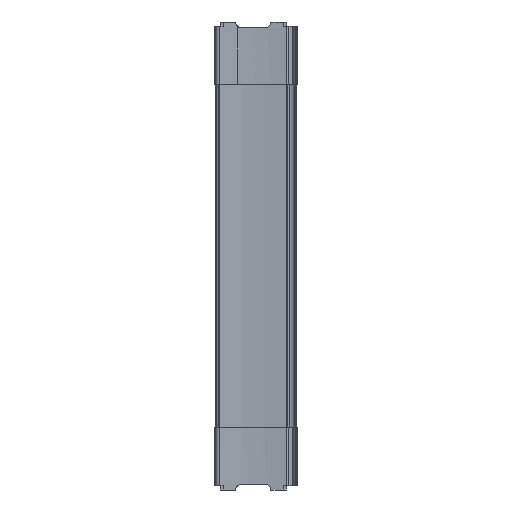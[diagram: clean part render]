
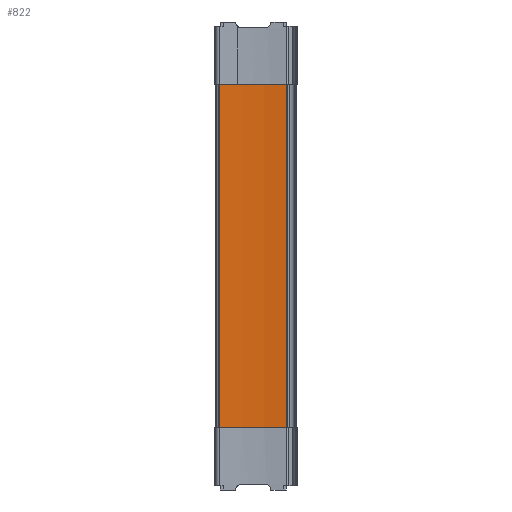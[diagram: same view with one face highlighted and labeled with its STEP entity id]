
A CAD part, left-side view. The second image highlights one B-rep face of the part: STEP entity #822.
In plain terms, the highlighted cylindrical face has radius 250 mm (diameter 500 mm), a partial arc.
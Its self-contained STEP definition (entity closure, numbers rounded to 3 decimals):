
#132 = VECTOR ( 'NONE', #4062, 1000. ) ;
#133 = LINE ( 'NONE', #4061, #132 ) ;
#339 = CIRCLE ( 'NONE', #1900, 250. ) ;
#388 = CIRCLE ( 'NONE', #1853, 250. ) ;
#634 = VECTOR ( 'NONE', #3462, 1000. ) ;
#635 = LINE ( 'NONE', #3461, #634 ) ;
#688 = CARTESIAN_POINT ( 'NONE',  ( -255.319, 48.963, -141. ) ) ;
#714 = CARTESIAN_POINT ( 'NONE',  ( -8.643, 8.331, -141. ) ) ;
#721 = CARTESIAN_POINT ( 'NONE',  ( -8.643, 8.331, 141. ) ) ;
#822 = ADVANCED_FACE ( 'NONE', ( #2161 ), #2158, .F. ) ;
#967 = VERTEX_POINT ( 'NONE', #1588 ) ;
#973 = VERTEX_POINT ( 'NONE', #1594 ) ;
#1002 = DIRECTION ( 'NONE',  ( -1., 0., 0. ) ) ;
#1003 = DIRECTION ( 'NONE',  ( 0., 0., -1. ) ) ;
#1004 = CARTESIAN_POINT ( 'NONE',  ( -255.319, 48.963, 147. ) ) ;
#1104 = VERTEX_POINT ( 'NONE', #721 ) ;
#1253 = VERTEX_POINT ( 'NONE', #714 ) ;
#1588 = CARTESIAN_POINT ( 'NONE',  ( -5.747, 63.571, -141. ) ) ;
#1594 = CARTESIAN_POINT ( 'NONE',  ( -5.747, 63.571, 141. ) ) ;
#1628 = EDGE_CURVE ( 'NONE', #1253, #967, #388, .T. ) ;
#1677 = EDGE_CURVE ( 'NONE', #1104, #1253, #635, .T. ) ;
#1741 = AXIS2_PLACEMENT_3D ( 'NONE', #1004, #1003, #1002 ) ;
#1853 = AXIS2_PLACEMENT_3D ( 'NONE', #688, #3318, #3319 ) ;
#1900 = AXIS2_PLACEMENT_3D ( 'NONE', #3733, #3734, #3735 ) ;
#2118 = ORIENTED_EDGE ( 'NONE', *, *, #1677, .F. ) ;
#2158 = CYLINDRICAL_SURFACE ( 'NONE', #1741, 250. ) ;
#2161 = FACE_OUTER_BOUND ( 'NONE', #3172, .T. ) ;
#2364 = ORIENTED_EDGE ( 'NONE', *, *, #1628, .F. ) ;
#2471 = ORIENTED_EDGE ( 'NONE', *, *, #3019, .F. ) ;
#3019 = EDGE_CURVE ( 'NONE', #973, #1104, #339, .T. ) ;
#3172 = EDGE_LOOP ( 'NONE', ( #2364, #2118, #2471, #3245 ) ) ;
#3204 = EDGE_CURVE ( 'NONE', #973, #967, #133, .T. ) ;
#3245 = ORIENTED_EDGE ( 'NONE', *, *, #3204, .T. ) ;
#3318 = DIRECTION ( 'NONE',  ( 0., 0., 1. ) ) ;
#3319 = DIRECTION ( 'NONE',  ( -1., 0., 0. ) ) ;
#3461 = CARTESIAN_POINT ( 'NONE',  ( -8.643, 8.331, 147. ) ) ;
#3462 = DIRECTION ( 'NONE',  ( 0., 0., -1. ) ) ;
#3733 = CARTESIAN_POINT ( 'NONE',  ( -255.319, 48.963, 141. ) ) ;
#3734 = DIRECTION ( 'NONE',  ( 0., 0., -1. ) ) ;
#3735 = DIRECTION ( 'NONE',  ( 1., 0., 0. ) ) ;
#4061 = CARTESIAN_POINT ( 'NONE',  ( -5.747, 63.571, 147. ) ) ;
#4062 = DIRECTION ( 'NONE',  ( 0., 0., -1. ) ) ;
